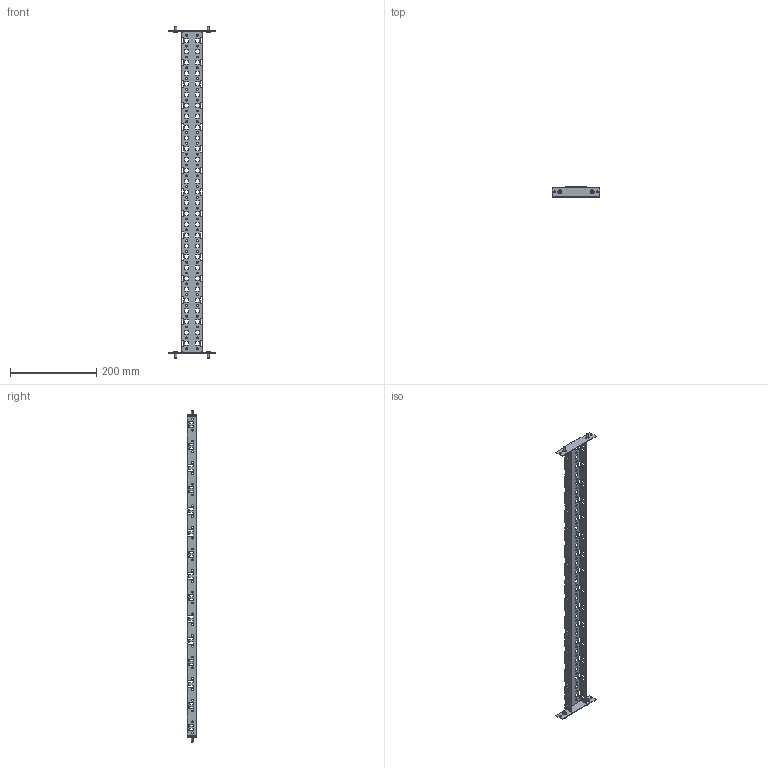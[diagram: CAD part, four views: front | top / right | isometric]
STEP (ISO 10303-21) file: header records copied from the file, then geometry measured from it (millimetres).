
FILE_DESCRIPTION(('Open CASCADE Model'),'2;1');
FILE_NAME('Open CASCADE Shape Model','2025-02-27T11:21:08',('Author'),( 'Open CASCADE'),'Open CASCADE STEP processor 7.8','Open CASCADE 7.8' ,'Unknown');
FILE_SCHEMA(('AUTOMOTIVE_DESIGN { 1 0 10303 214 1 1 1 1 }'));
Length unit declared in the file: millimetre
Products named in the file (3): Compound1; Solid1; Solid2
Assembly tree (5 placements, depth 2):
  Compound1
    Solid1
    Solid2  x4
Bounding box: 111 x 22.5 x 768 mm (x, y, z)
Volume: 92296.9 mm3; surface area: 135553.9 mm2
Topology: 5 solids, 5 shells, 1102 faces, 3392 edges, 2236 vertices
Faces by surface type: plane 782, cylinder 272, cone 16, torus 16, bspline 8, sphere 8
Entity records: 36782 total; most frequent: CARTESIAN_POINT 6643, ORIENTED_EDGE 6480, DIRECTION 5838, EDGE_CURVE 3240, LINE 2690, VECTOR 2690, VERTEX_POINT 2155, AXIS2_PLACEMENT_3D 1574
